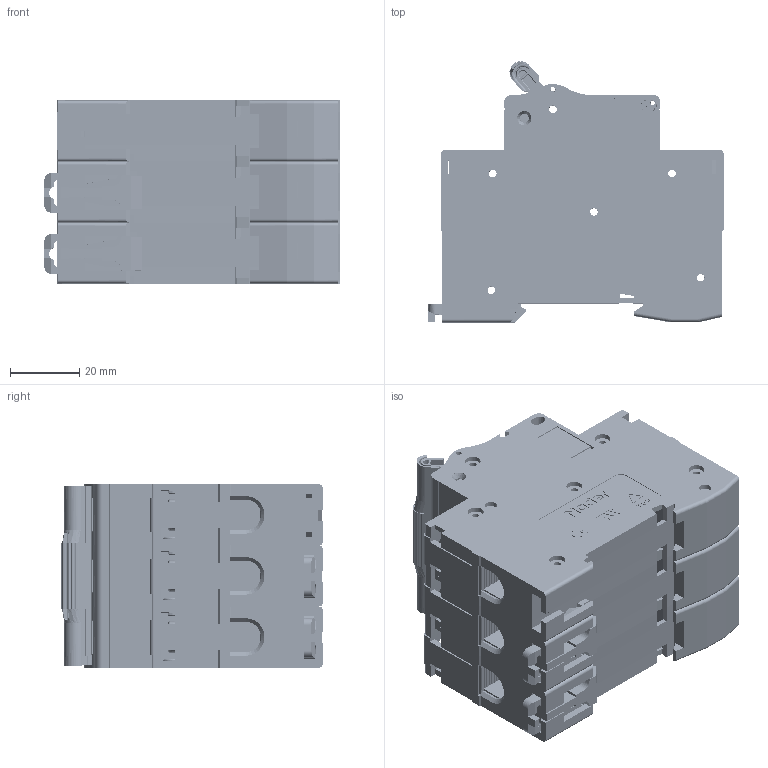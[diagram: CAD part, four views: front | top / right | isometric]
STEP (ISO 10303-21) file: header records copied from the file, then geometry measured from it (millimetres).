
FILE_DESCRIPTION (( 'STEP AP214' ), '1' );
FILE_NAME ('3p.STEP', '2021-09-02T11:13:44', ( '' ), ( '' ), 'SwSTEP 2.0', 'SolidWorks 2018', '' );
FILE_SCHEMA (( 'AUTOMOTIVE_DESIGN' ));
Length unit declared in the file: millimetre
Products named in the file (15): 8LD.039.100; 8LD.143.115; 8LD.253.172; 8LD.315.140; 1p; 8LD.516.163; 8LD.516.164; 5LD.574.103; 8LD.516.135; 8LD.253.129; 8LD.024.137; 8LD.315.141; 3p; 8LD.907.115
Assembly tree (27 placements, depth 4):
  3p
    1p
      8LD.024.137
      8LD.253.129
      5LD.574.103  x2
        8LD.516.135
        8LD.907.115
      8LD.315.140
      8LD.315.141  x2
      8LD.516.163
      8LD.516.164
      8LD.039.100
    1p  x2
      8LD.024.137
      8LD.253.129
      5LD.574.103
        8LD.516.135
        8LD.907.115
      8LD.143.115
      8LD.315.140
      8LD.315.141
      8LD.516.163
      8LD.516.164
      8LD.039.100
    8LD.253.172
Bounding box: 85.1 x 75.41 x 52.8 mm (x, y, z)
Volume: 232954 mm3; surface area: 146746.8 mm2
Topology: 48 solids, 72 shells, 10291 faces, 28873 edges, 18947 vertices
Faces by surface type: plane 5993, cylinder 3044, cone 713, bspline 460, torus 57, sphere 24
Entity records: 118818 total; most frequent: CARTESIAN_POINT 34064, ORIENTED_EDGE 18608, DIRECTION 16072, EDGE_CURVE 9304, LINE 6184, VECTOR 6184, VERTEX_POINT 6117, AXIS2_PLACEMENT_3D 4944
